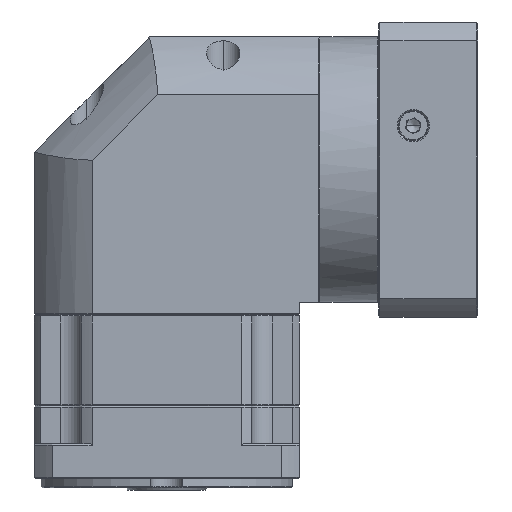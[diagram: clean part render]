
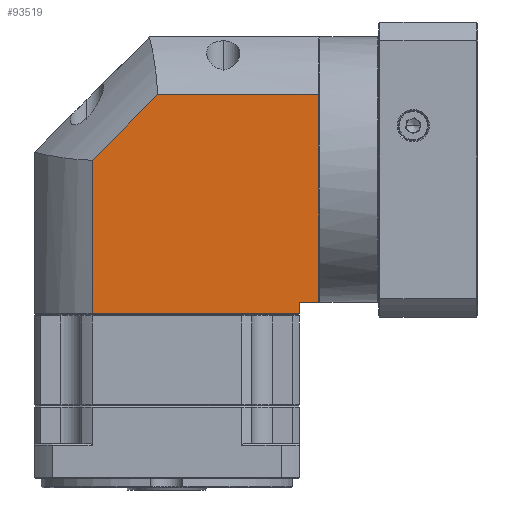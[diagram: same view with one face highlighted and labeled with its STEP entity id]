
A CAD part, front view. The second image highlights one B-rep face of the part: STEP entity #93519.
In plain terms, the highlighted planar face has unit normal (0, -1, 0).
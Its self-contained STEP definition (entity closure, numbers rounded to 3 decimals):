
#3138 = VERTEX_POINT ( 'NONE', #70632 ) ;
#3406 = EDGE_CURVE ( 'NONE', #52812, #3138, #108143, .T. ) ;
#5992 = VECTOR ( 'NONE', #25894, 1000. ) ;
#7875 = CARTESIAN_POINT ( 'NONE',  ( -25.487, -3.918, -69.954 ) ) ;
#10777 = ORIENTED_EDGE ( 'NONE', *, *, #73112, .F. ) ;
#10987 = LINE ( 'NONE', #44355, #15704 ) ;
#15704 = VECTOR ( 'NONE', #64875, 1000. ) ;
#17190 = DIRECTION ( 'NONE',  ( 0., 1., 0. ) ) ;
#17503 = DIRECTION ( 'NONE',  ( 0.707, 0., 0.707 ) ) ;
#21106 = DIRECTION ( 'NONE',  ( -1., 0., 0. ) ) ;
#25894 = DIRECTION ( 'NONE',  ( -1., 0., 0. ) ) ;
#26866 = LINE ( 'NONE', #85049, #103625 ) ;
#29719 = VECTOR ( 'NONE', #30408, 1000. ) ;
#30408 = DIRECTION ( 'NONE',  ( 0., 0., -1. ) ) ;
#31024 = EDGE_CURVE ( 'NONE', #65676, #49470, #103752, .T. ) ;
#34928 = DIRECTION ( 'NONE',  ( 0., 0., 1. ) ) ;
#37485 = CARTESIAN_POINT ( 'NONE',  ( -25.487, -3.918, -58.454 ) ) ;
#39664 = CARTESIAN_POINT ( 'NONE',  ( -0.387, -3.918, 3.108 ) ) ;
#40695 = CARTESIAN_POINT ( 'NONE',  ( 89.513, -3.918, -69.954 ) ) ;
#44355 = CARTESIAN_POINT ( 'NONE',  ( -25.487, -3.918, 31.446 ) ) ;
#46850 = CARTESIAN_POINT ( 'NONE',  ( 27.951, -3.918, 31.446 ) ) ;
#49470 = VERTEX_POINT ( 'NONE', #46850 ) ;
#51773 = VECTOR ( 'NONE', #56686, 1000. ) ;
#52628 = VECTOR ( 'NONE', #17503, 1000. ) ;
#52812 = VERTEX_POINT ( 'NONE', #59466 ) ;
#56686 = DIRECTION ( 'NONE',  ( 0., 0., -1. ) ) ;
#56926 = LINE ( 'NONE', #40695, #29719 ) ;
#57919 = EDGE_CURVE ( 'NONE', #85490, #52812, #78984, .T. ) ;
#59466 = CARTESIAN_POINT ( 'NONE',  ( 97.913, -3.918, -58.454 ) ) ;
#59798 = EDGE_CURVE ( 'NONE', #49470, #85490, #10987, .T. ) ;
#64875 = DIRECTION ( 'NONE',  ( 1., 0., 0. ) ) ;
#65676 = VERTEX_POINT ( 'NONE', #39664 ) ;
#66430 = EDGE_CURVE ( 'NONE', #99358, #65676, #26866, .T. ) ;
#69204 = EDGE_CURVE ( 'NONE', #92006, #99358, #123168, .T. ) ;
#70632 = CARTESIAN_POINT ( 'NONE',  ( 89.513, -3.918, -58.454 ) ) ;
#72982 = ORIENTED_EDGE ( 'NONE', *, *, #3406, .F. ) ;
#73112 = EDGE_CURVE ( 'NONE', #3138, #92006, #56926, .T. ) ;
#78984 = LINE ( 'NONE', #107613, #51773 ) ;
#79680 = AXIS2_PLACEMENT_3D ( 'NONE', #7875, #17190, #89981 ) ;
#85049 = CARTESIAN_POINT ( 'NONE',  ( -0.387, -3.918, -69.954 ) ) ;
#85490 = VERTEX_POINT ( 'NONE', #109443 ) ;
#86117 = EDGE_LOOP ( 'NONE', ( #10777, #72982, #127677, #121867, #108859, #122328, #108605 ) ) ;
#89981 = DIRECTION ( 'NONE',  ( 1., 0., 0. ) ) ;
#92006 = VERTEX_POINT ( 'NONE', #110158 ) ;
#93034 = CARTESIAN_POINT ( 'NONE',  ( -25.487, -3.918, -63.454 ) ) ;
#93519 = ADVANCED_FACE ( 'NONE', ( #116867 ), #98952, .F. ) ;
#96145 = VECTOR ( 'NONE', #21106, 1000. ) ;
#98952 = PLANE ( 'NONE',  #79680 ) ;
#99358 = VERTEX_POINT ( 'NONE', #132103 ) ;
#99683 = CARTESIAN_POINT ( 'NONE',  ( -0.387, -3.918, 3.108 ) ) ;
#103625 = VECTOR ( 'NONE', #34928, 1000. ) ;
#103752 = LINE ( 'NONE', #99683, #52628 ) ;
#107613 = CARTESIAN_POINT ( 'NONE',  ( 97.913, -3.918, -69.954 ) ) ;
#108143 = LINE ( 'NONE', #37485, #5992 ) ;
#108605 = ORIENTED_EDGE ( 'NONE', *, *, #69204, .F. ) ;
#108859 = ORIENTED_EDGE ( 'NONE', *, *, #31024, .F. ) ;
#109443 = CARTESIAN_POINT ( 'NONE',  ( 97.913, -3.918, 31.446 ) ) ;
#110158 = CARTESIAN_POINT ( 'NONE',  ( 89.513, -3.918, -63.454 ) ) ;
#116867 = FACE_OUTER_BOUND ( 'NONE', #86117, .T. ) ;
#121867 = ORIENTED_EDGE ( 'NONE', *, *, #59798, .F. ) ;
#122328 = ORIENTED_EDGE ( 'NONE', *, *, #66430, .F. ) ;
#123168 = LINE ( 'NONE', #93034, #96145 ) ;
#127677 = ORIENTED_EDGE ( 'NONE', *, *, #57919, .F. ) ;
#132103 = CARTESIAN_POINT ( 'NONE',  ( -0.387, -3.918, -63.454 ) ) ;
